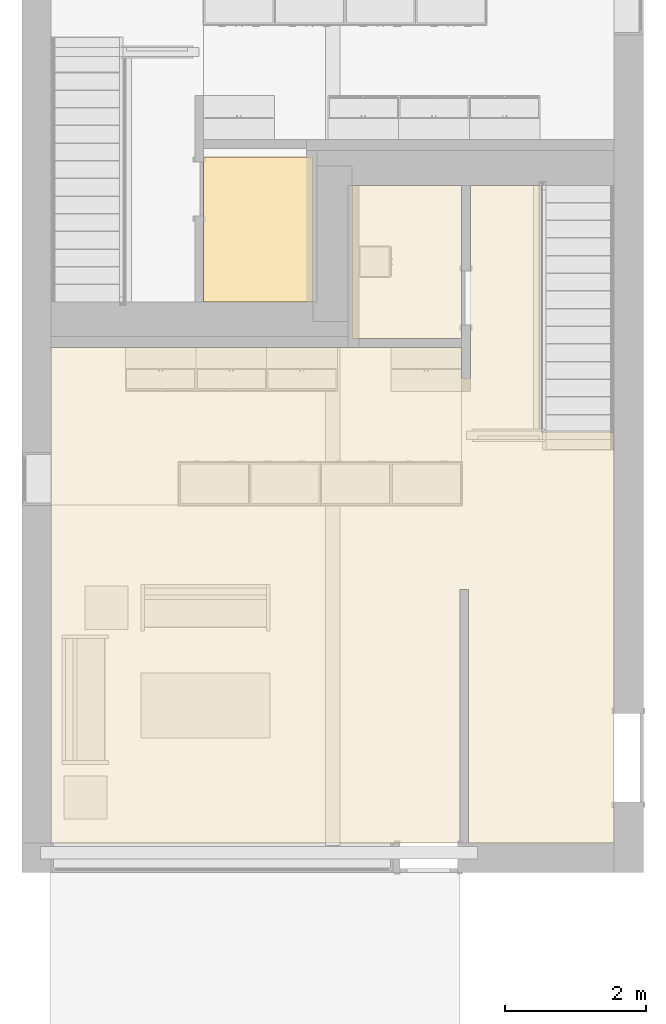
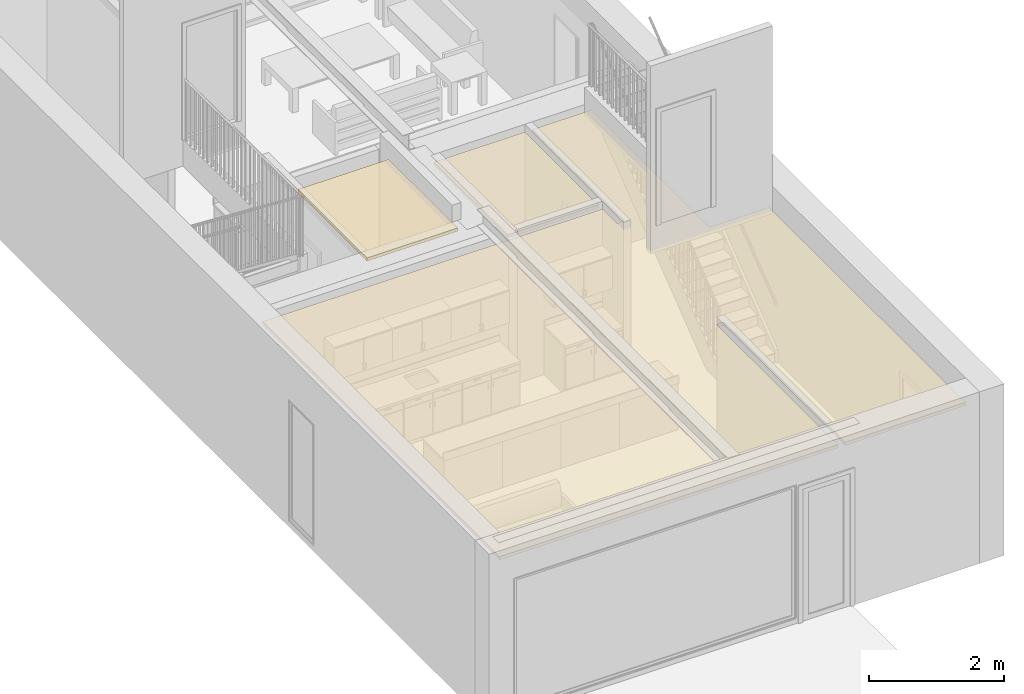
# One storey, part 2 of 14: 4 coverings.
"""IFC4 building model written with IfcOpenShell, lengths in metres."""

from ifc_helpers import new_model, entity, si_unit, converted_unit, frame, origin, place, context, project, spatial, face_set, surface_model, element, save


model = new_model("IFC4")

# Units and contexts
model_context = context("Model", 3, precision=1e-09, world=origin())
plan_context = context("Plan", 3, precision=1e-09, world=origin())
ifc_project = project(units=[si_unit("LENGTHUNIT", "METRE"), si_unit("AREAUNIT", "SQUARE_METRE"), si_unit("VOLUMEUNIT", "CUBIC_METRE"), converted_unit("PLANEANGLEUNIT", "DEGREE", entity("IfcRatioMeasure", 0.01745329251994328), si_unit("PLANEANGLEUNIT", "RADIAN"), dimensions=[0, 0, 0, 0, 0, 0, 0]), si_unit("TIMEUNIT", "SECOND")], contexts=[model_context, plan_context])

# Site, building, storey
site_placement = place(None, origin())
site = spatial("IfcSite", under=ifc_project, at=site_placement, Name="Default", CompositionType="ELEMENT")
building_placement = place(site_placement, origin())
building = spatial("IfcBuilding", under=site, at=building_placement, CompositionType="ELEMENT")
storey_placement = place(building_placement, origin())
storey = spatial("IfcBuildingStorey", under=building, at=storey_placement, Name="Level 1", CompositionType="ELEMENT", Elevation=0.0)

# Coverings
for number, where, name in (
    (1, (0.0, 0.0, 0.0), "Compound Ceiling:Gypsum Board"),
    (2, (0.0, 0.0, 0.0), "Compound Ceiling:Gypsum Board"),
):
    element("IfcCovering", number, at=place(storey_placement, frame(where)), inside=storey, Name=name, ObjectType="Compound Ceiling:Gypsum Board", PredefinedType="CEILING", context=model_context, shape_type="SurfaceModel", body=[
        surface_model("IfcFaceBasedSurfaceModel", [(2.573999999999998, -9.725000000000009, 2.657), (2.574000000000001, -7.676999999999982, 2.657), (4.125000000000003, -7.676999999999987, 2.657), (4.124999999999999, -9.725000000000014, 2.657), (2.573999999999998, -9.725000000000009, 2.6), (2.574000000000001, -7.676999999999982, 2.6), (4.125000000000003, -7.676999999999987, 2.6), (4.124999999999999, -9.725000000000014, 2.6)], [face_set([[[0, 1, 2, 3]], [[4, 5, 6, 7]], [[3, 7, 4, 0]], [[2, 6, 7, 3]], [[1, 2, 6, 5]], [[0, 1, 5, 4]]])]),
    ])
covering_1_placement = place(storey_placement, origin())
element("IfcCovering", 3, at=covering_1_placement, inside=storey, Name="Compound Ceiling:Gypsum Board", ObjectType="Compound Ceiling:Gypsum Board", PredefinedType="CEILING", context=model_context, shape_type="SurfaceModel", body=[
    surface_model("IfcFaceBasedSurfaceModel", [(4.675000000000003, -8.07499999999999, 2.657), (6.226000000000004, -8.074999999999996, 2.657), (6.226, -10.24600000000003, 2.657), (4.674999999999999, -10.24600000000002, 2.657), (4.675000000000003, -8.07499999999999, 2.6), (6.226000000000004, -8.074999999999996, 2.6), (6.226, -10.24600000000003, 2.6), (4.674999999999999, -10.24600000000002, 2.6)], [face_set([[[0, 1, 2, 3]], [[4, 5, 6, 7]], [[3, 0, 4, 7]], [[2, 6, 7, 3]], [[1, 5, 6, 2]], [[0, 1, 5, 4]]])]),
])
covering_2_placement = place(storey_placement, origin())
element("IfcCovering", 4, at=covering_2_placement, inside=storey, Name="Compound Ceiling:Gypsum Board", ObjectType="Compound Ceiling:Gypsum Board", PredefinedType="CEILING", context=model_context, shape_type="SurfaceModel", body=[
    surface_model("IfcFaceBasedSurfaceModel", [(6.225999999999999, -10.37000000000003, 2.657), (6.225999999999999, -10.8, 2.657), (6.349999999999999, -10.8, 2.657), (6.350000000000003, -8.074999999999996, 2.657), (7.358599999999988, -8.075, 2.657), (7.358599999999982, -11.566, 2.657), (8.382999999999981, -11.566, 2.657), (8.382999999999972, -17.383, 2.657), (6.323999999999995, -17.38299999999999, 2.657), (6.324000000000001, -13.8, 2.657), (6.2, -13.8, 2.657), (6.199999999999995, -17.38299999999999, 2.657), (0.4169999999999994, -17.38299999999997, 2.657), (0.4169999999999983, -10.37000000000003, 2.657), (6.225999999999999, -10.37000000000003, 2.6), (0.4169999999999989, -10.37000000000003, 2.6), (0.4169999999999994, -17.38299999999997, 2.6), (6.199999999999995, -17.38299999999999, 2.6), (6.2, -13.8, 2.6), (6.324000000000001, -13.8, 2.6), (6.323999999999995, -17.38299999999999, 2.6), (8.382999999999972, -17.383, 2.6), (8.382999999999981, -11.566, 2.6), (7.358599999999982, -11.566, 2.6), (7.358599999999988, -8.075, 2.6), (6.350000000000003, -8.074999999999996, 2.6), (6.349999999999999, -10.8, 2.6), (6.225999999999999, -10.8, 2.6)], [face_set([[[0, 1, 2, 3, 4, 5, 6, 7, 8, 9, 10, 11, 12, 13]], [[14, 15, 16, 17, 18, 19, 20, 21, 22, 23, 24, 25, 26, 27]], [[13, 0, 14, 15]], [[12, 13, 15, 16]], [[11, 17, 16, 12]], [[10, 18, 17, 11]], [[9, 19, 18, 10]], [[8, 9, 19, 20]], [[7, 21, 20, 8]], [[6, 22, 21, 7]], [[5, 6, 22, 23]], [[4, 24, 23, 5]], [[3, 4, 24, 25]], [[2, 3, 25, 26]], [[1, 2, 26, 27]], [[0, 14, 27, 1]]])]),
])

save(model, "model.ifc")
